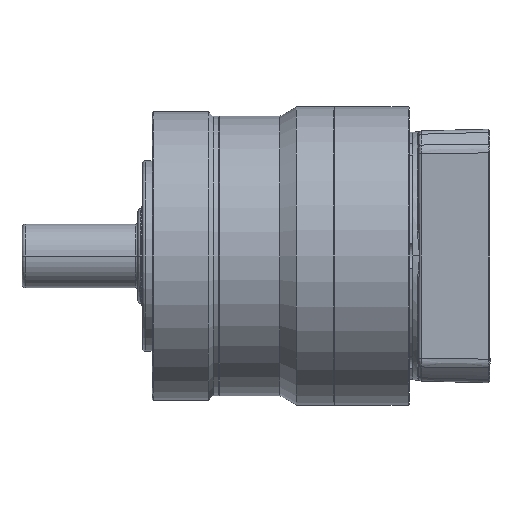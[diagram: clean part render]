
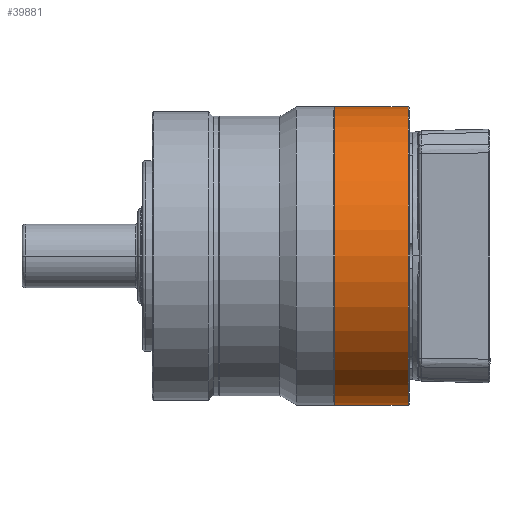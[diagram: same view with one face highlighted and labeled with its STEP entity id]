
A CAD part, front view. The second image highlights one B-rep face of the part: STEP entity #39881.
In plain terms, the highlighted cylindrical face has radius 47 mm (diameter 94 mm), a partial arc.
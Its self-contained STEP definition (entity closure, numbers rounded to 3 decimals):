
#1781 = EDGE_CURVE ( 'NONE', #36145, #49112, #43616, .T. ) ;
#2690 = DIRECTION ( 'NONE',  ( -1., 0., 0. ) ) ;
#3026 = VERTEX_POINT ( 'NONE', #18991 ) ;
#3780 = CIRCLE ( 'NONE', #7176, 47. ) ;
#3857 = CARTESIAN_POINT ( 'NONE',  ( 0., 0., -47. ) ) ;
#5817 = EDGE_CURVE ( 'NONE', #42004, #36145, #3780, .T. ) ;
#6000 = ORIENTED_EDGE ( 'NONE', *, *, #1781, .T. ) ;
#6496 = DIRECTION ( 'NONE',  ( 0., 0., 1. ) ) ;
#6615 = DIRECTION ( 'NONE',  ( -1., 0., 0. ) ) ;
#6687 = CARTESIAN_POINT ( 'NONE',  ( 26.7, 0., 0. ) ) ;
#7176 = AXIS2_PLACEMENT_3D ( 'NONE', #6687, #6615, #6496 ) ;
#8535 = VECTOR ( 'NONE', #54942, 1000. ) ;
#10778 = DIRECTION ( 'NONE',  ( 0., 0., 1. ) ) ;
#10825 = DIRECTION ( 'NONE',  ( -1., 0., 0. ) ) ;
#10876 = CARTESIAN_POINT ( 'NONE',  ( 3.5, 0., 0. ) ) ;
#11932 = DIRECTION ( 'NONE',  ( 0., 0., 1. ) ) ;
#12780 = EDGE_CURVE ( 'NONE', #42004, #3026, #28268, .T. ) ;
#12911 = CIRCLE ( 'NONE', #35467, 47. ) ;
#18991 = CARTESIAN_POINT ( 'NONE',  ( 3.5, 0., -47. ) ) ;
#20365 = EDGE_LOOP ( 'NONE', ( #33716, #59036, #6000, #33842 ) ) ;
#20961 = CARTESIAN_POINT ( 'NONE',  ( 0., 0., 0. ) ) ;
#21664 = EDGE_CURVE ( 'NONE', #3026, #49112, #12911, .T. ) ;
#24290 = FACE_OUTER_BOUND ( 'NONE', #20365, .T. ) ;
#25595 = DIRECTION ( 'NONE',  ( -1., 0., 0. ) ) ;
#28268 = LINE ( 'NONE', #3857, #33168 ) ;
#32718 = AXIS2_PLACEMENT_3D ( 'NONE', #20961, #25595, #11932 ) ;
#33168 = VECTOR ( 'NONE', #2690, 1000. ) ;
#33716 = ORIENTED_EDGE ( 'NONE', *, *, #12780, .F. ) ;
#33842 = ORIENTED_EDGE ( 'NONE', *, *, #21664, .F. ) ;
#35467 = AXIS2_PLACEMENT_3D ( 'NONE', #10876, #10825, #10778 ) ;
#36145 = VERTEX_POINT ( 'NONE', #47607 ) ;
#39881 = ADVANCED_FACE ( 'NONE', ( #24290 ), #54800, .T. ) ;
#42004 = VERTEX_POINT ( 'NONE', #47721 ) ;
#43616 = LINE ( 'NONE', #54948, #8535 ) ;
#47607 = CARTESIAN_POINT ( 'NONE',  ( 26.7, 0., 47. ) ) ;
#47721 = CARTESIAN_POINT ( 'NONE',  ( 26.7, 0., -47. ) ) ;
#49112 = VERTEX_POINT ( 'NONE', #49572 ) ;
#49572 = CARTESIAN_POINT ( 'NONE',  ( 3.5, 0., 47. ) ) ;
#54800 = CYLINDRICAL_SURFACE ( 'NONE', #32718, 47. ) ;
#54942 = DIRECTION ( 'NONE',  ( -1., 0., 0. ) ) ;
#54948 = CARTESIAN_POINT ( 'NONE',  ( 0., 0., 47. ) ) ;
#59036 = ORIENTED_EDGE ( 'NONE', *, *, #5817, .T. ) ;
